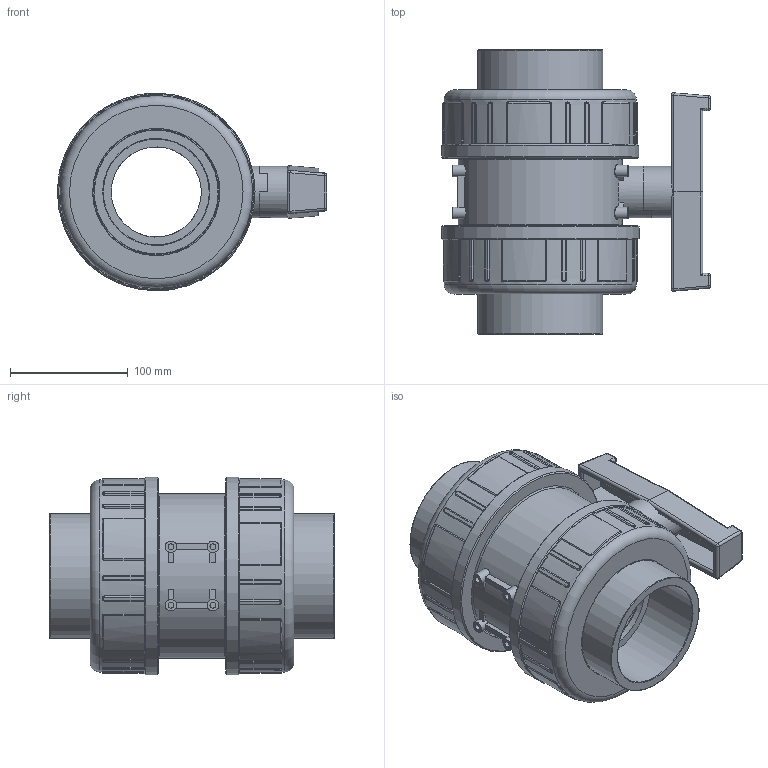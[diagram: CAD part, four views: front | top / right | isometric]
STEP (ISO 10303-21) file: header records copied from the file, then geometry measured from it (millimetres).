
FILE_DESCRIPTION(/* description */ (''),/* implementation_level */ '2;1');
FILE_NAME(/* name */ 'C:\Users\POLYPIPE\Desktop\DATASET INVENTOR\LIBRERIA EFFAST\3D_VALVOLE\3D_VALVOLE A SFERA\3D_BK1\3D_BDRBK1D\3D_BDRBK1D0900.stp',/* time_stamp */ '2018-01-23T15:38:33+01:00',/* author */ ('POLYPIPE'),/* organization */ (''),/* preprocessor_version */ 'ST-DEVELOPER v16.1',/* originating_system */ 'Autodesk Inventor 2016',/* authorisation */ '');
FILE_SCHEMA (('CONFIG_CONTROL_DESIGN'));
Products named in the file (1): 3D_BDRBK1D0900
Bounding box: 228.75 x 242 x 168 mm (x, y, z)
Volume: 2686457.3 mm3; surface area: 389537.5 mm2
Topology: 2 solids, 3 shells, 562 faces, 1398 edges, 873 vertices
Faces by surface type: plane 186, cylinder 182, bspline 152, torus 26, sphere 12, cone 4
Full cylindrical faces by diameter (mm): 5 x8, 10 x8, 29.8 x1, 43.5 x1, 44.1 x1, 76.6 x2, 76.8 x1, 90 x2, 106.2 x2, 108 x2, 108.2 x2, 133.1 x2, 137 x2, 139.5 x1, 142.5 x2, 163.5 x2, 168 x2
Entity records: 60913 total; most frequent: CARTESIAN_POINT 47837, ORIENTED_EDGE 2654, DIRECTION 2392, EDGE_CURVE 1327, AXIS2_PLACEMENT_3D 916, VERTEX_POINT 859, EDGE_LOOP 654, STYLED_ITEM 564
